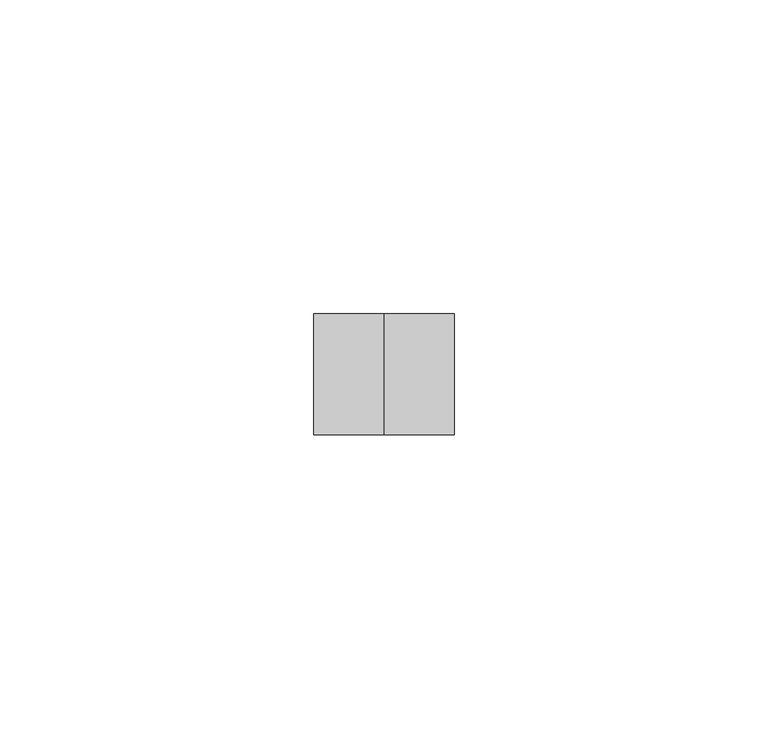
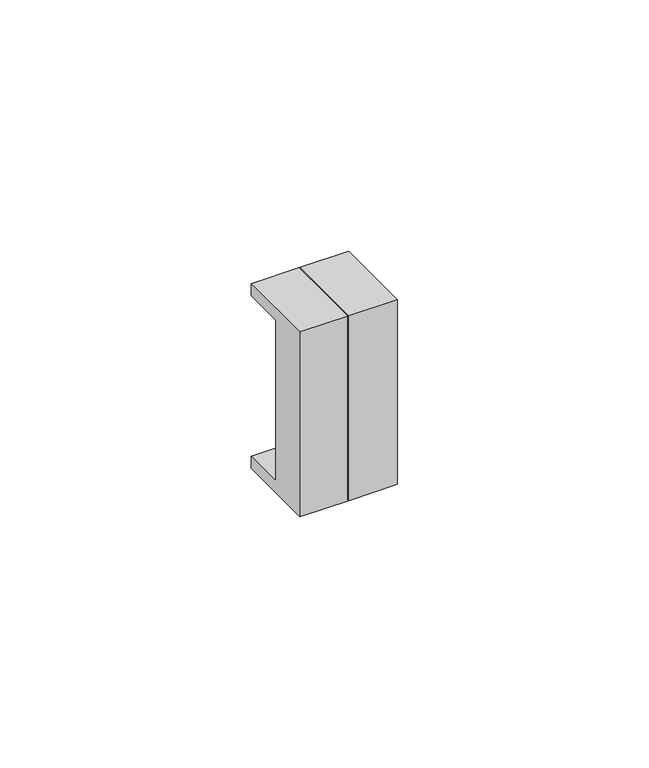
"""IFC4 building model written with IfcOpenShell, lengths in millimetres: proxy geometry."""

from ifc_helpers import new_model, si_unit, frame, origin, place, context, project, spatial, polyline, outline, extrude, source, transform, mapped, element, save


def electrical_fixtures_1179ebf0(model_context):
    return source(origin(), model_context, "Body", "SweptSolid", [
        extrude(outline(polyline([(-7.0, -22.45), (-7.0, 22.45), (12.3, 22.45), (12.3, 19.45), (2.5, 19.45), (2.5, -19.45), (12.3, -19.45), (12.3, -22.45), (-7.0, -22.45)])), frame((11.2, 0.0, 0.0), z_axis=(1.0, 0.0, 0.0), x_axis=(0.0, 1.0, 0.0)), (0.0, 0.0, 1.0), 11.2),
        extrude(outline(polyline([(12.3, 22.45), (12.3, 19.45), (2.5, 19.45), (2.5, -19.45), (12.3, -19.45), (12.3, -22.45), (-7.0, -22.45), (-7.0, 22.45), (12.3, 22.45)])), frame((0.0, 0.0, 0.0), z_axis=(1.0, 0.0, 0.0), x_axis=(0.0, 1.0, 0.0)), (0.0, 0.0, 1.0), 11.2),
    ])


if __name__ == "__main__":
    model = new_model("IFC4")
    model_context = context("Model", 3, world=origin())
    ifc_project = project(units=[si_unit("LENGTHUNIT", "METRE", prefix="MILLI")], contexts=[model_context])
    site = spatial("IfcSite", under=ifc_project)
    building = spatial("IfcBuilding", under=site)
    placement = place(None, origin())
    electrical_fixtures_shape = electrical_fixtures_1179ebf0(model_context)
    element("IfcBuildingElementProxy", 1, Name="Electrical Fixtures", at=placement, inside=building, context=model_context, shape_type="MappedRepresentation", body=[
        mapped(electrical_fixtures_shape, transform((0.0, 0.0, 0.0), x_axis=(1.0, 0.0, 0.0), y_axis=(0.0, 1.0, 0.0), z_axis=(0.0, 0.0, 1.0))),
    ])
    save(model, "model.ifc")
